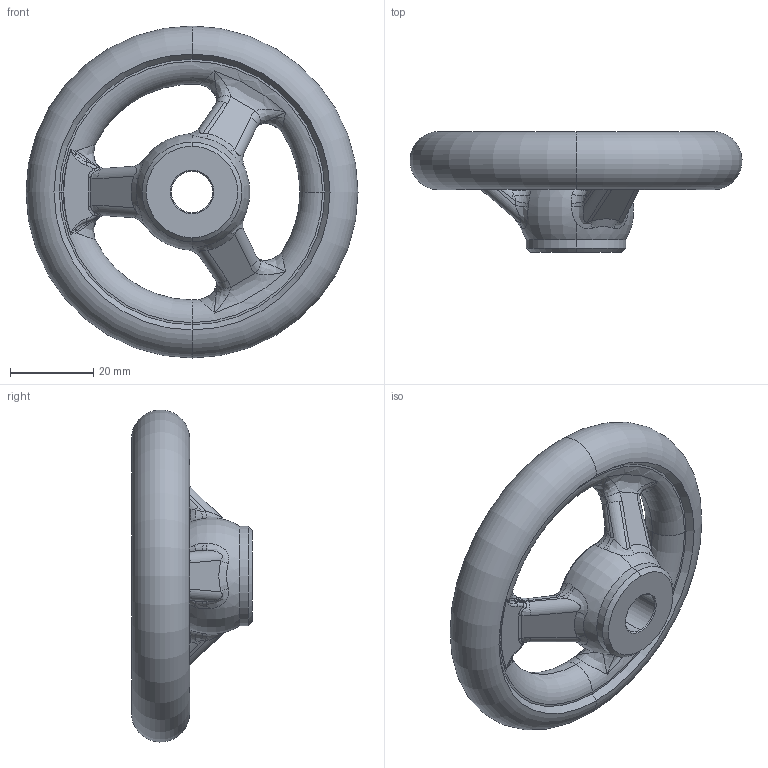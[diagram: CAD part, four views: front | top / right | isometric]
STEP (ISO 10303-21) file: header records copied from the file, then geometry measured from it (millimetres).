
FILE_DESCRIPTION (( 'STEP AP203' ), '1' );
FILE_NAME ('din950_a4_80x10.step', '2010-03-23T10:03:27', ( '_' ), ( '_' ), 'SwSTEP 2.0', 'SolidWorks 2010', '' );
FILE_SCHEMA (( 'CONFIG_CONTROL_DESIGN' ));
Length unit declared in the file: millimetre
Products named in the file (1): din950_a4_80x10
Bounding box: 79.99 x 29 x 79.99 mm (x, y, z)
Volume: 40876.1 mm3; surface area: 12746.6 mm2
Topology: 1 solids, 1 shells, 190 faces, 467 edges, 261 vertices
Faces by surface type: bspline 109, torus 27, cylinder 24, plane 16, cone 14
Entity records: 23183 total; most frequent: CARTESIAN_POINT 19320, ORIENTED_EDGE 910, DIRECTION 610, EDGE_CURVE 455, AXIS2_PLACEMENT_3D 281, VERTEX_POINT 261, B_SPLINE_CURVE_WITH_KNOTS 206, CIRCLE 199
